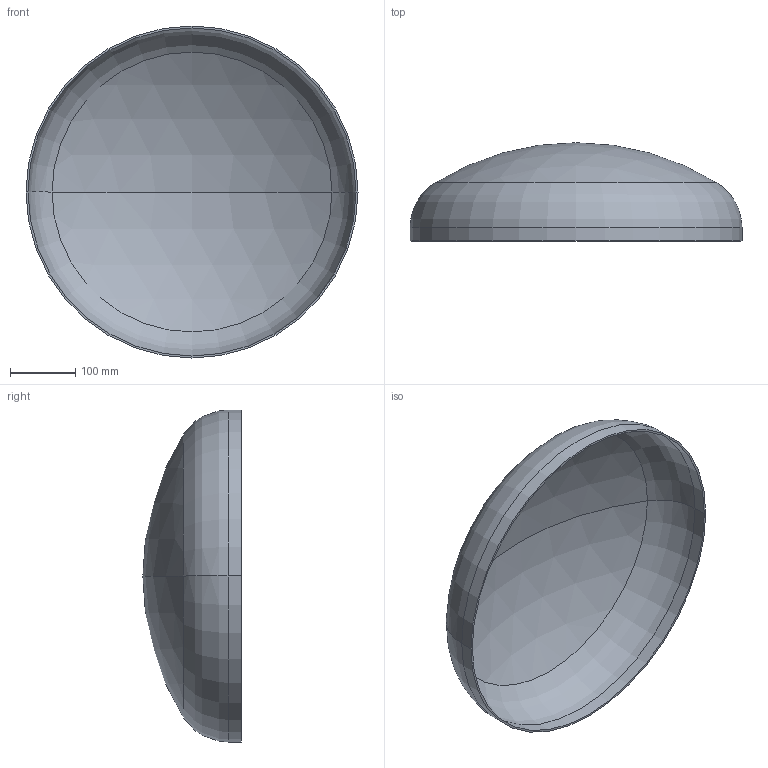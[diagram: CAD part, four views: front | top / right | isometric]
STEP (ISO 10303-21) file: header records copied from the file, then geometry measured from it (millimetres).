
FILE_DESCRIPTION (( 'STEP AP203' ), '1' );
FILE_NAME ('DIN 28013 Korbbogenform_-_Boden DIN 28013 - 508 x 20 - I - s=3.step', '2016-07-01T07:51:44', ( '' ), ( '' ), 'SwSTEP 2.0', 'SolidWorks 2013', '' );
FILE_SCHEMA (( 'CONFIG_CONTROL_DESIGN' ));
Length unit declared in the file: millimetre
Products named in the file (1): DIN 28013 Korbbogenform_-_Boden DIN 28013 - 508 x 20 - I - s=3
Bounding box: 508 x 150.33 x 508 mm (x, y, z)
Volume: 930397.8 mm3; surface area: 625043.3 mm2
Topology: 1 solids, 1 shells, 13 faces, 24 edges, 14 vertices
Faces by surface type: torus 4, cylinder 4, sphere 4, plane 1
Entity records: 407 total; most frequent: DIRECTION 72, CARTESIAN_POINT 52, ORIENTED_EDGE 48, AXIS2_PLACEMENT_3D 34, EDGE_CURVE 24, CIRCLE 20, EDGE_LOOP 14, VERTEX_POINT 14
